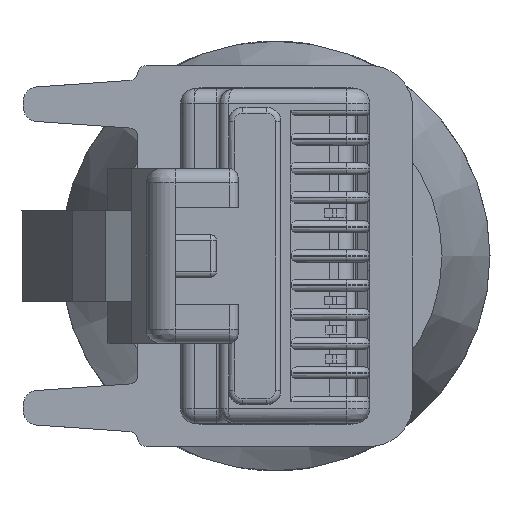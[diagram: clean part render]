
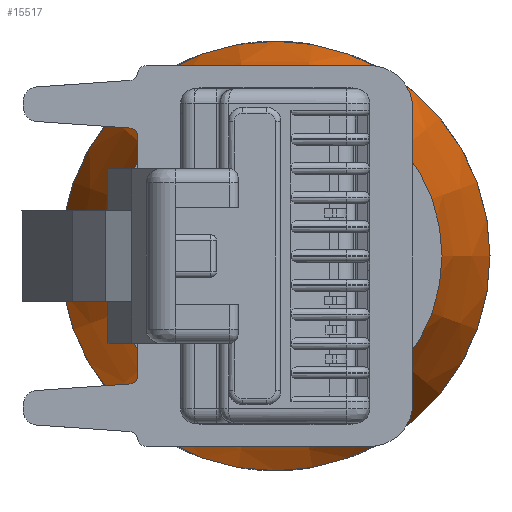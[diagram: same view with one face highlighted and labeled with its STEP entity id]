
A CAD part, left-side view. The second image highlights one B-rep face of the part: STEP entity #15517.
In plain terms, the highlighted conical face has half-angle 13.36 degrees and reference radius 7.5 mm.
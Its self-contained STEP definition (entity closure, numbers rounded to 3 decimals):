
#27=CONICAL_SURFACE('',#17051,7.5,0.233);
#1596=FACE_OUTER_BOUND('',#2503,.T.);
#2503=EDGE_LOOP('',(#13749,#13750,#13751,#13752,#13753,#13754));
#3798=LINE('',#30364,#5128);
#5128=VECTOR('',#21183,7.5);
#5967=CIRCLE('',#17049,7.5);
#5968=CIRCLE('',#17050,7.5);
#5969=CIRCLE('',#17052,5.6);
#5970=CIRCLE('',#17053,5.6);
#7307=VERTEX_POINT('',#30354);
#7308=VERTEX_POINT('',#30355);
#7309=VERTEX_POINT('',#30363);
#7310=VERTEX_POINT('',#30365);
#9489=EDGE_CURVE('',#7307,#7308,#5967,.T.);
#9490=EDGE_CURVE('',#7308,#7307,#5968,.T.);
#9495=EDGE_CURVE('',#7307,#7309,#3798,.T.);
#9496=EDGE_CURVE('',#7310,#7309,#5969,.T.);
#9497=EDGE_CURVE('',#7309,#7310,#5970,.T.);
#13749=ORIENTED_EDGE('',*,*,#9489,.T.);
#13750=ORIENTED_EDGE('',*,*,#9490,.T.);
#13751=ORIENTED_EDGE('',*,*,#9495,.T.);
#13752=ORIENTED_EDGE('',*,*,#9496,.F.);
#13753=ORIENTED_EDGE('',*,*,#9497,.F.);
#13754=ORIENTED_EDGE('',*,*,#9495,.F.);
#15517=ADVANCED_FACE('',(#1596),#27,.T.);
#17049=AXIS2_PLACEMENT_3D('',#30356,#21173,#21174);
#17050=AXIS2_PLACEMENT_3D('',#30357,#21175,#21176);
#17051=AXIS2_PLACEMENT_3D('',#30362,#21181,#21182);
#17052=AXIS2_PLACEMENT_3D('',#30366,#21184,#21185);
#17053=AXIS2_PLACEMENT_3D('',#30367,#21186,#21187);
#21173=DIRECTION('center_axis',(-1.,0.,0.));
#21174=DIRECTION('ref_axis',(0.,-1.,0.));
#21175=DIRECTION('center_axis',(-1.,0.,0.));
#21176=DIRECTION('ref_axis',(0.,-1.,0.));
#21181=DIRECTION('center_axis',(1.,0.,0.));
#21182=DIRECTION('ref_axis',(0.,1.,0.));
#21183=DIRECTION('',(-0.973,0.231,0.));
#21184=DIRECTION('center_axis',(-1.,0.,0.));
#21185=DIRECTION('ref_axis',(0.,0.,
1.));
#21186=DIRECTION('center_axis',(-1.,0.,0.));
#21187=DIRECTION('ref_axis',(0.,0.,
1.));
#30354=CARTESIAN_POINT('',(-30.5,-7.5,0.));
#30355=CARTESIAN_POINT('',(-30.5,7.5,0.));
#30356=CARTESIAN_POINT('Origin',(-30.5,0.,
0.));
#30357=CARTESIAN_POINT('Origin',(-30.5,0.,
0.));
#30362=CARTESIAN_POINT('Origin',(-30.5,0.,
0.));
#30363=CARTESIAN_POINT('',(-38.5,-5.6,0.));
#30364=CARTESIAN_POINT('',(-30.5,-7.5,0.));
#30365=CARTESIAN_POINT('',(-38.5,0.,5.6));
#30366=CARTESIAN_POINT('Origin',(-38.5,0.,
0.));
#30367=CARTESIAN_POINT('Origin',(-38.5,0.,
0.));
